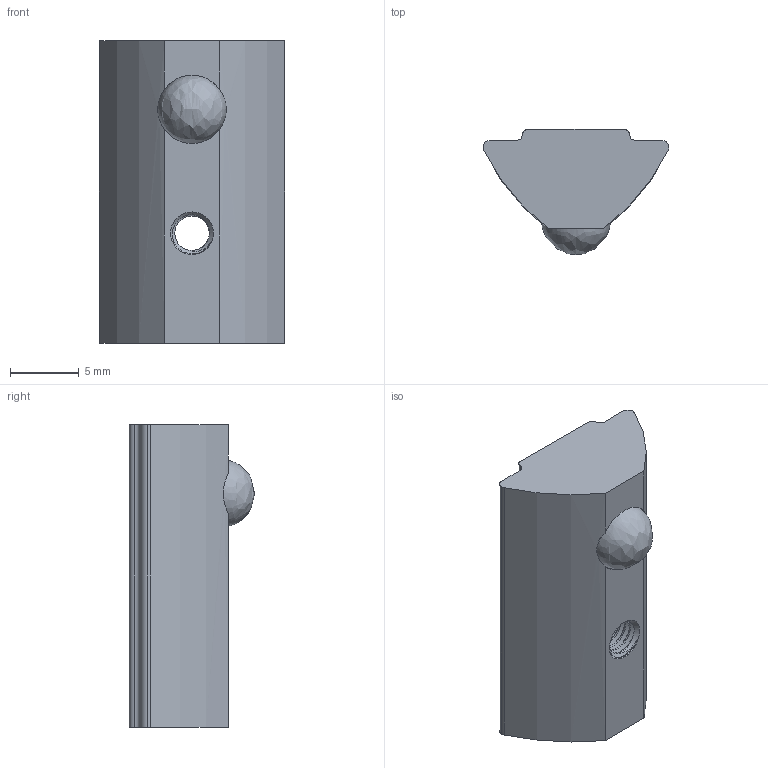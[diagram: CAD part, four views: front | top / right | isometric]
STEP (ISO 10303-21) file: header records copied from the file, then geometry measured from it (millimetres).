
FILE_DESCRIPTION (( 'STEP AP203' ), '1' );
FILE_NAME ('355005_Nutenstein 8 M3 einschwenkbar mit Kugel und Steg.step', '2022-11-24T09:08:51', ( '' ), ( '' ), 'SwSTEP 2.0', 'SolidWorks 2021', '' );
FILE_SCHEMA (( 'CONFIG_CONTROL_DESIGN' ));
Length unit declared in the file: millimetre
Products named in the file (1): 355005_Nutenstein 8 M3 einschwenkbar mit Kugel und Steg
Bounding box: 13.47 x 9.1 x 22 mm (x, y, z)
Volume: 1448.8 mm3; surface area: 1122.2 mm2
Topology: 1 solids, 2 shells, 61 faces, 169 edges, 112 vertices
Faces by surface type: cylinder 42, plane 8, bspline 6, cone 5
Entity records: 3899 total; most frequent: CARTESIAN_POINT 2444, ORIENTED_EDGE 338, DIRECTION 246, EDGE_CURVE 169, VERTEX_POINT 112, AXIS2_PLACEMENT_3D 94, EDGE_LOOP 63, ADVANCED_FACE 61
